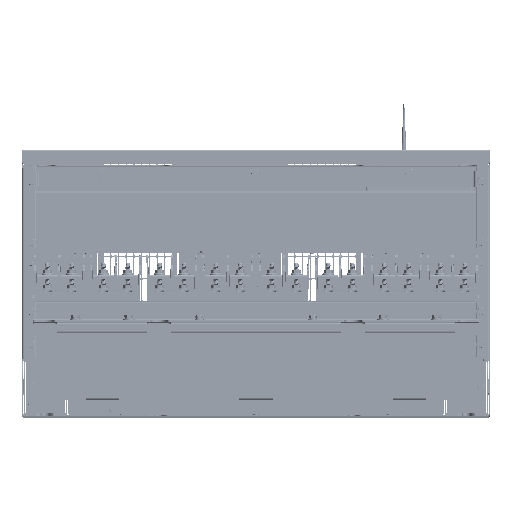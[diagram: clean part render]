
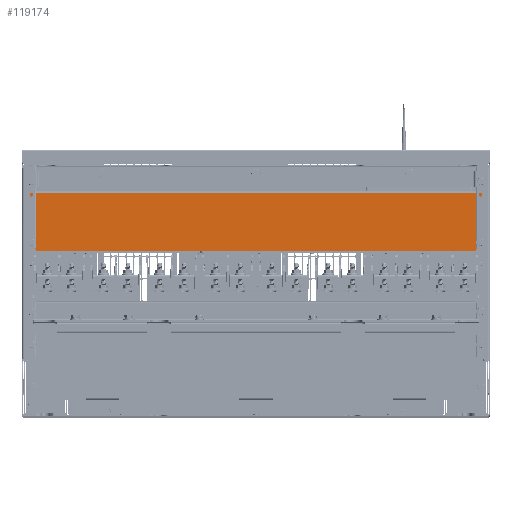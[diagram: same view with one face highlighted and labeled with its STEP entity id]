
A CAD part, top view. The second image highlights one B-rep face of the part: STEP entity #119174.
In plain terms, the highlighted planar face has unit normal (0, 0, 1).
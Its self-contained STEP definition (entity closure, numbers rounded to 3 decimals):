
#115824=DIRECTION('',(1.,0.,0.));
#115825=VECTOR('',#115824,684.);
#115826=CARTESIAN_POINT('',(-342.,247.,-204.));
#115827=LINE('',#115826,#115825);
#116013=DIRECTION('',(0.,-1.,0.));
#116014=VECTOR('',#116013,87.7);
#116015=CARTESIAN_POINT('',(342.,334.7,-204.));
#116016=LINE('',#116015,#116014);
#116017=DIRECTION('',(0.,-1.,0.));
#116018=VECTOR('',#116017,87.7);
#116019=CARTESIAN_POINT('',(-342.,334.7,-204.));
#116020=LINE('',#116019,#116018);
#116039=DIRECTION('',(-1.,0.,0.));
#116040=VECTOR('',#116039,684.);
#116041=CARTESIAN_POINT('',(342.,334.7,-204.));
#116042=LINE('',#116041,#116040);
#118139=CARTESIAN_POINT('',(342.,247.,-204.));
#118140=VERTEX_POINT('',#118139);
#118143=CARTESIAN_POINT('',(-342.,247.,-204.));
#118144=VERTEX_POINT('',#118143);
#118191=CARTESIAN_POINT('',(342.,334.7,-204.));
#118192=VERTEX_POINT('',#118191);
#118193=CARTESIAN_POINT('',(-342.,334.7,-204.));
#118194=VERTEX_POINT('',#118193);
#119161=CARTESIAN_POINT('',(344.,334.7,-204.));
#119162=DIRECTION('',(0.,0.,1.));
#119163=DIRECTION('',(0.,-1.,0.));
#119164=AXIS2_PLACEMENT_3D('',#119161,#119162,#119163);
#119165=PLANE('',#119164);
#119166=ORIENTED_EDGE('',*,*,#119152,.T.);
#119167=ORIENTED_EDGE('',*,*,#118930,.F.);
#119169=ORIENTED_EDGE('',*,*,#119168,.F.);
#119171=ORIENTED_EDGE('',*,*,#119170,.F.);
#119172=EDGE_LOOP('',(#119166,#119167,#119169,#119171));
#119173=FACE_OUTER_BOUND('',#119172,.F.);
#118930=EDGE_CURVE('',#118144,#118140,#115827,.T.);
#119152=EDGE_CURVE('',#118192,#118140,#116016,.T.);
#119168=EDGE_CURVE('',#118194,#118144,#116020,.T.);
#119170=EDGE_CURVE('',#118192,#118194,#116042,.T.);
#119174=ADVANCED_FACE('',(#119173),#119165,.T.);
